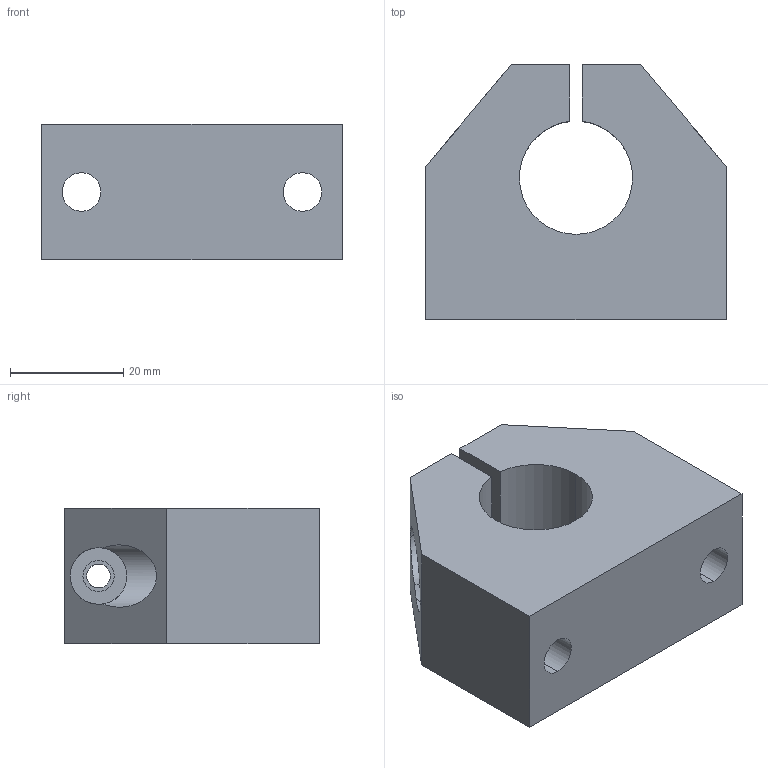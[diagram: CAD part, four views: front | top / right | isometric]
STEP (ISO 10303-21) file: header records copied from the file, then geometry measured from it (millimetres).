
FILE_DESCRIPTION (( 'STEP AP214' ), '1' );
FILE_NAME ('KWBC58-20.step', '2020-03-04T13:11:57', ( '' ), ( '' ), 'SwSTEP 2.0', 'SolidWorks 2019', '' );
FILE_SCHEMA (( 'AUTOMOTIVE_DESIGN' ));
Length unit declared in the file: millimetre
Products named in the file (1): KWBC58-20
Bounding box: 53 x 45 x 24 mm (x, y, z)
Volume: 37562.1 mm3; surface area: 11731.4 mm2
Topology: 1 solids, 1 shells, 31 faces, 81 edges, 54 vertices
Faces by surface type: cylinder 17, plane 14
Entity records: 1163 total; most frequent: CARTESIAN_POINT 282, ORIENTED_EDGE 162, DIRECTION 160, EDGE_CURVE 81, AXIS2_PLACEMENT_3D 58, VERTEX_POINT 54, VECTOR 44, LINE 44
